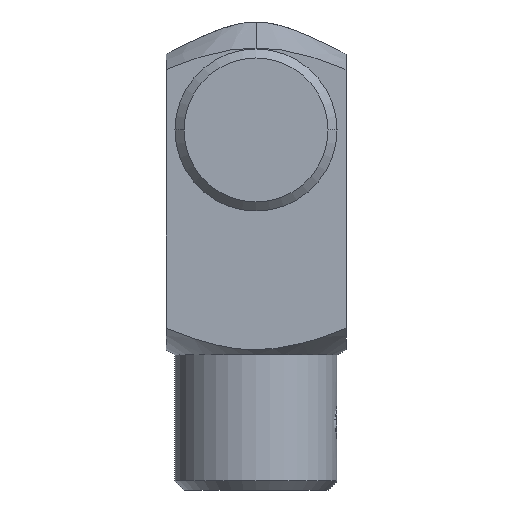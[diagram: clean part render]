
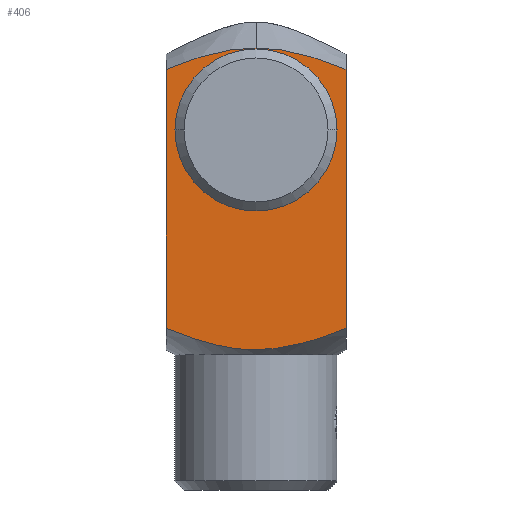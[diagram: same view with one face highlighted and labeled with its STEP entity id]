
A CAD part, front view. The second image highlights one B-rep face of the part: STEP entity #406.
In plain terms, the highlighted planar face has unit normal (0, -1, 0).
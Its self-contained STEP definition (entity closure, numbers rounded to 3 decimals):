
#7 = PLANE ( 'NONE',  #553 ) ;
#101 = VECTOR ( 'NONE', #2506, 1000. ) ;
#112 =( BOUNDED_CURVE ( )  B_SPLINE_CURVE ( 2, ( #3332, #2753, #1937 ),
 .UNSPECIFIED., .F., .T. ) 
 B_SPLINE_CURVE_WITH_KNOTS ( ( 3, 3 ),
 ( 1.265, 3.055 ),
 .UNSPECIFIED. ) 
 CURVE ( )  GEOMETRIC_REPRESENTATION_ITEM ( )  RATIONAL_B_SPLINE_CURVE ( ( 1.657, 2., 2. ) ) 
 REPRESENTATION_ITEM ( '' )  );
#301 = CARTESIAN_POINT ( 'NONE',  ( -10., -10., 191.722 ) ) ;
#313 = EDGE_CURVE ( 'NONE', #1167, #3286, #3319, .T. ) ;
#406 = ADVANCED_FACE ( 'NONE', ( #3119, #3078 ), #7, .T. ) ;
#433 = DIRECTION ( 'NONE',  ( -1., 0., 0. ) ) ;
#553 = AXIS2_PLACEMENT_3D ( 'NONE', #1419, #2231, #1929 ) ;
#566 = CIRCLE ( 'NONE', #1972, 5. ) ;
#571 = ORIENTED_EDGE ( 'NONE', *, *, #313, .T. ) ;
#649 = DIRECTION ( 'NONE',  ( -1., 0., 0. ) ) ;
#650 = VERTEX_POINT ( 'NONE', #3046 ) ;
#672 = EDGE_CURVE ( 'NONE', #2110, #1300, #1379, .T. ) ;
#702 = VERTEX_POINT ( 'NONE', #2799 ) ;
#731 = CARTESIAN_POINT ( 'NONE',  ( 10., -10., 162.969 ) ) ;
#892 = ORIENTED_EDGE ( 'NONE', *, *, #2501, .T. ) ;
#906 = CARTESIAN_POINT ( 'NONE',  ( 0., -10., 194.113 ) ) ;
#928 = CARTESIAN_POINT ( 'NONE',  ( -10., -10., 191.722 ) ) ;
#949 = CARTESIAN_POINT ( 'NONE',  ( -10., -10., 162.969 ) ) ;
#1000 = CARTESIAN_POINT ( 'NONE',  ( 0., -10., 158.886 ) ) ;
#1059 = CARTESIAN_POINT ( 'NONE',  ( 5., -10., 185. ) ) ;
#1167 = VERTEX_POINT ( 'NONE', #2593 ) ;
#1261 = EDGE_CURVE ( 'NONE', #3286, #1167, #566, .T. ) ;
#1300 = VERTEX_POINT ( 'NONE', #301 ) ;
#1379 = LINE ( 'NONE', #3563, #101 ) ;
#1419 = CARTESIAN_POINT ( 'NONE',  ( 10., -10., 160. ) ) ;
#1431 = ORIENTED_EDGE ( 'NONE', *, *, #1654, .T. ) ;
#1455 = EDGE_CURVE ( 'NONE', #2110, #702, #3248, .T. ) ;
#1561 = DIRECTION ( 'NONE',  ( 0., 1., 0. ) ) ;
#1654 = EDGE_CURVE ( 'NONE', #702, #650, #1675, .T. ) ;
#1671 = EDGE_LOOP ( 'NONE', ( #2878, #1431, #2965, #892, #3005 ) ) ;
#1675 = LINE ( 'NONE', #2734, #3328 ) ;
#1771 = VERTEX_POINT ( 'NONE', #2877 ) ;
#1929 = DIRECTION ( 'NONE',  ( -1., 0., 0. ) ) ;
#1937 = CARTESIAN_POINT ( 'NONE',  ( 0., -10., 194.113 ) ) ;
#1972 = AXIS2_PLACEMENT_3D ( 'NONE', #3495, #1561, #649 ) ;
#2110 = VERTEX_POINT ( 'NONE', #949 ) ;
#2228 = ORIENTED_EDGE ( 'NONE', *, *, #1261, .T. ) ;
#2231 = DIRECTION ( 'NONE',  ( 0., -1., 0. ) ) ;
#2235 = EDGE_LOOP ( 'NONE', ( #571, #2228 ) ) ;
#2386 = CARTESIAN_POINT ( 'NONE',  ( -10., -10., 162.969 ) ) ;
#2501 = EDGE_CURVE ( 'NONE', #1771, #1300, #3019, .T. ) ;
#2506 = DIRECTION ( 'NONE',  ( 0., 0., 1. ) ) ;
#2562 = CARTESIAN_POINT ( 'NONE',  ( -4.142, -10., 194.113 ) ) ;
#2593 = CARTESIAN_POINT ( 'NONE',  ( -5., -10., 185. ) ) ;
#2683 = AXIS2_PLACEMENT_3D ( 'NONE', #2953, #2993, #433 ) ;
#2734 = CARTESIAN_POINT ( 'NONE',  ( 10., -10., 160. ) ) ;
#2753 = CARTESIAN_POINT ( 'NONE',  ( 4.142, -10., 194.113 ) ) ;
#2799 = CARTESIAN_POINT ( 'NONE',  ( 10., -10., 162.969 ) ) ;
#2830 = EDGE_CURVE ( 'NONE', #650, #1771, #112, .T. ) ;
#2877 = CARTESIAN_POINT ( 'NONE',  ( 0., -10., 194.113 ) ) ;
#2878 = ORIENTED_EDGE ( 'NONE', *, *, #1455, .T. ) ;
#2953 = CARTESIAN_POINT ( 'NONE',  ( 0., -10., 185. ) ) ;
#2965 = ORIENTED_EDGE ( 'NONE', *, *, #2830, .T. ) ;
#2993 = DIRECTION ( 'NONE',  ( 0., 1., 0. ) ) ;
#3005 = ORIENTED_EDGE ( 'NONE', *, *, #672, .F. ) ;
#3019 =( BOUNDED_CURVE ( )  B_SPLINE_CURVE ( 2, ( #906, #2562, #928 ),
 .UNSPECIFIED., .F., .T. ) 
 B_SPLINE_CURVE_WITH_KNOTS ( ( 3, 3 ),
 ( 3.055, 4.845 ),
 .UNSPECIFIED. ) 
 CURVE ( )  GEOMETRIC_REPRESENTATION_ITEM ( )  RATIONAL_B_SPLINE_CURVE ( ( 2., 2., 1.657 ) ) 
 REPRESENTATION_ITEM ( '' )  );
#3046 = CARTESIAN_POINT ( 'NONE',  ( 10., -10., 191.722 ) ) ;
#3078 = FACE_OUTER_BOUND ( 'NONE', #1671, .T. ) ;
#3119 = FACE_BOUND ( 'NONE', #2235, .T. ) ;
#3248 =( BOUNDED_CURVE ( )  B_SPLINE_CURVE ( 2, ( #2386, #1000, #731 ),
 .UNSPECIFIED., .F., .F. ) 
 B_SPLINE_CURVE_WITH_KNOTS ( ( 3, 3 ),
 ( 0.443, 2.977 ),
 .UNSPECIFIED. ) 
 CURVE ( )  GEOMETRIC_REPRESENTATION_ITEM ( )  RATIONAL_B_SPLINE_CURVE ( ( 1.205, 1.705, 1.205 ) ) 
 REPRESENTATION_ITEM ( '' )  );
#3286 = VERTEX_POINT ( 'NONE', #1059 ) ;
#3300 = DIRECTION ( 'NONE',  ( 0., 0., 1. ) ) ;
#3319 = CIRCLE ( 'NONE', #2683, 5. ) ;
#3328 = VECTOR ( 'NONE', #3300, 1000. ) ;
#3332 = CARTESIAN_POINT ( 'NONE',  ( 10., -10., 191.722 ) ) ;
#3495 = CARTESIAN_POINT ( 'NONE',  ( 0., -10., 185. ) ) ;
#3563 = CARTESIAN_POINT ( 'NONE',  ( -10., -10., 160. ) ) ;
